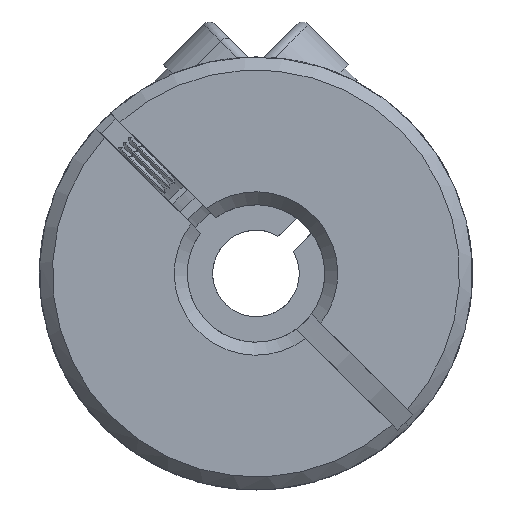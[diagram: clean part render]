
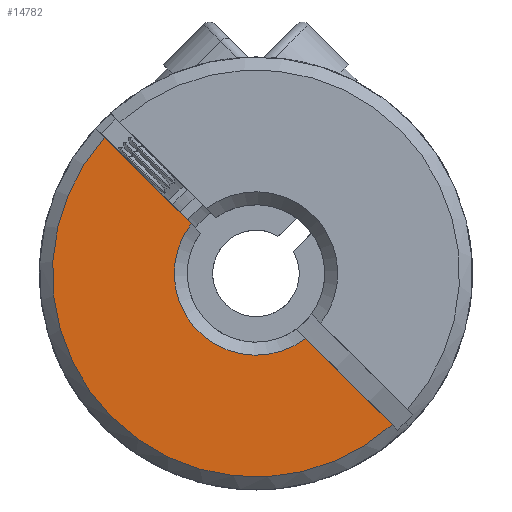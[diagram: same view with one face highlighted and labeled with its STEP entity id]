
A CAD part, front view. The second image highlights one B-rep face of the part: STEP entity #14782.
In plain terms, the highlighted planar face has unit normal (0, -1, 0).
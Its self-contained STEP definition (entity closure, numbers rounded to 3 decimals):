
#35 = VERTEX_POINT ( 'NONE', #7502 ) ;
#746 = ORIENTED_EDGE ( 'NONE', *, *, #8162, .T. ) ;
#1234 = FACE_OUTER_BOUND ( 'NONE', #8941, .T. ) ;
#1329 = VERTEX_POINT ( 'NONE', #6629 ) ;
#1523 = VECTOR ( 'NONE', #6791, 1000. ) ;
#1607 = CARTESIAN_POINT ( 'NONE',  ( -2.999, -11.2, 2.292 ) ) ;
#1920 = VERTEX_POINT ( 'NONE', #1607 ) ;
#2014 = CARTESIAN_POINT ( 'NONE',  ( 6.284, -11.2, -6.991 ) ) ;
#2645 = CARTESIAN_POINT ( 'NONE',  ( 0.205, -11.2, -0.912 ) ) ;
#3062 = DIRECTION ( 'NONE',  ( 0., -1., 0. ) ) ;
#3244 = CARTESIAN_POINT ( 'NONE',  ( 0., -11.2, 0. ) ) ;
#4647 = ORIENTED_EDGE ( 'NONE', *, *, #7620, .T. ) ;
#5096 = AXIS2_PLACEMENT_3D ( 'NONE', #3244, #14858, #5574 ) ;
#5187 = CIRCLE ( 'NONE', #5096, 9.4 ) ;
#5574 = DIRECTION ( 'NONE',  ( -0.707, 0., 0.707 ) ) ;
#6440 = VECTOR ( 'NONE', #8501, 1000. ) ;
#6629 = CARTESIAN_POINT ( 'NONE',  ( 2.292, -11.2, -2.999 ) ) ;
#6791 = DIRECTION ( 'NONE',  ( -0.707, 0., 0.707 ) ) ;
#7461 = CIRCLE ( 'NONE', #9997, 3.775 ) ;
#7502 = CARTESIAN_POINT ( 'NONE',  ( -6.991, -11.2, 6.284 ) ) ;
#7516 = LINE ( 'NONE', #2645, #6440 ) ;
#7620 = EDGE_CURVE ( 'NONE', #8070, #1329, #9501, .T. ) ;
#8070 = VERTEX_POINT ( 'NONE', #2014 ) ;
#8162 = EDGE_CURVE ( 'NONE', #1329, #1920, #7461, .T. ) ;
#8501 = DIRECTION ( 'NONE',  ( -0.707, 0., 0.707 ) ) ;
#8531 = CARTESIAN_POINT ( 'NONE',  ( 45.083, -11.2, 25.627 ) ) ;
#8901 = ORIENTED_EDGE ( 'NONE', *, *, #9212, .T. ) ;
#8941 = EDGE_LOOP ( 'NONE', ( #12586, #8901, #4647, #746 ) ) ;
#9052 = CARTESIAN_POINT ( 'NONE',  ( 0., -11.2, 0. ) ) ;
#9212 = EDGE_CURVE ( 'NONE', #35, #8070, #5187, .T. ) ;
#9501 = LINE ( 'NONE', #11452, #1523 ) ;
#9908 = DIRECTION ( 'NONE',  ( -0.707, 0., 0.707 ) ) ;
#9915 = EDGE_CURVE ( 'NONE', #1920, #35, #7516, .T. ) ;
#9997 = AXIS2_PLACEMENT_3D ( 'NONE', #9052, #12530, #14844 ) ;
#10904 = AXIS2_PLACEMENT_3D ( 'NONE', #8531, #3062, #9908 ) ;
#11452 = CARTESIAN_POINT ( 'NONE',  ( -8.839, -11.2, 8.132 ) ) ;
#12530 = DIRECTION ( 'NONE',  ( 0., 1., 0. ) ) ;
#12586 = ORIENTED_EDGE ( 'NONE', *, *, #9915, .T. ) ;
#13178 = PLANE ( 'NONE',  #10904 ) ;
#14782 = ADVANCED_FACE ( 'NONE', ( #1234 ), #13178, .T. ) ;
#14844 = DIRECTION ( 'NONE',  ( -0.707, 0., 0.707 ) ) ;
#14858 = DIRECTION ( 'NONE',  ( 0., -1., 0. ) ) ;
